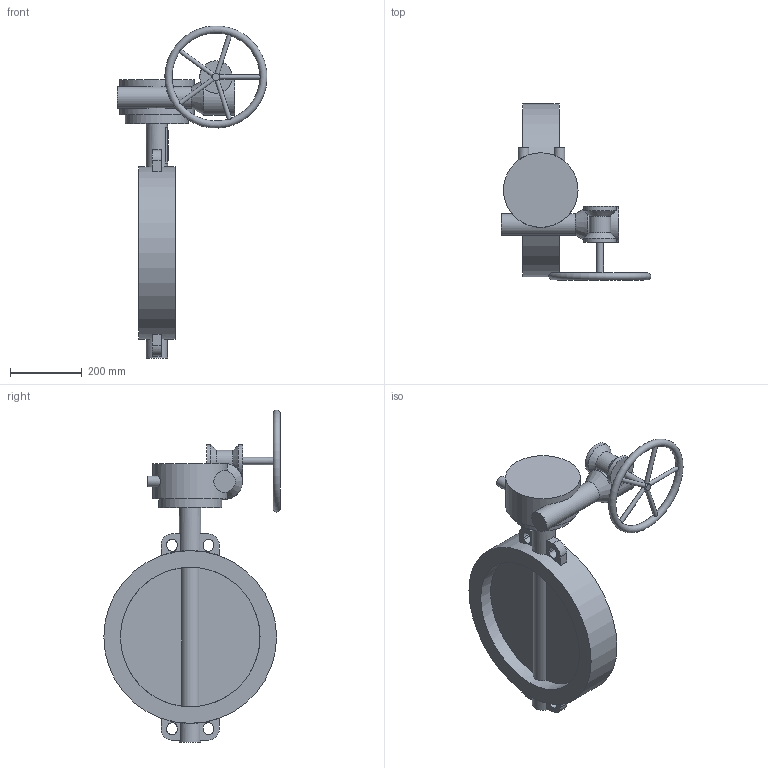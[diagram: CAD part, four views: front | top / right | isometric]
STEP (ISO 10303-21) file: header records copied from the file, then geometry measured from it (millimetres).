
FILE_DESCRIPTION(('STEP AP203'), '1');
FILE_NAME('青蜮铕 017W.ZS DN400 PN10_16 疱潴牝铕', '', ('UNSPECIFIED'), ('UNSPECIFIED'), 'ASCON STEP Converter 1.6', 'ASCON Math Kernel', '');
FILE_SCHEMA(('CONFIG_CONTROL_DESIGN'));
Length unit declared in the file: millimetre
Bounding box: 418.48 x 492 x 926.3 mm (x, y, z)
Volume: 16248283.9 mm3; surface area: 998073.3 mm2
Topology: 1 solids, 1 shells, 797 faces, 2282 edges, 1520 vertices
Faces by surface type: cylinder 600, plane 193, cone 3, torus 1
Full cylindrical faces by diameter (mm): 12 x5, 14 x4, 18 x4, 20 x2, 30 x2, 60 x3, 90 x2, 100 x1, 175 x1, 208 x1, 389.6 x2, 482 x1
Entity records: 36057 total; most frequent: CARTESIAN_POINT 7785, DIRECTION 5001, ORIENTED_EDGE 4502, EDGE_CURVE 2251, AXIS2_PLACEMENT_3D 2002, VERTEX_POINT 1519, CIRCLE 1204, LINE 997
